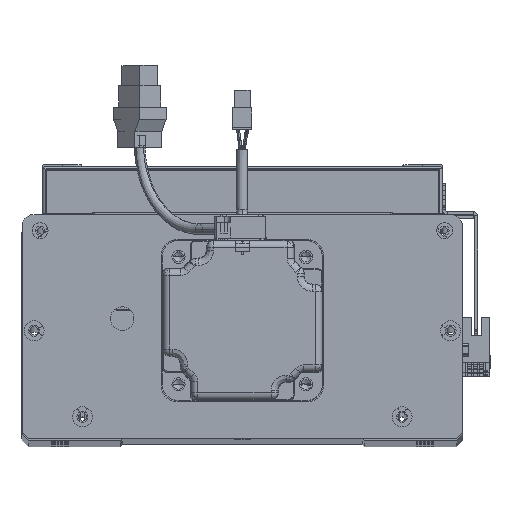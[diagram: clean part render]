
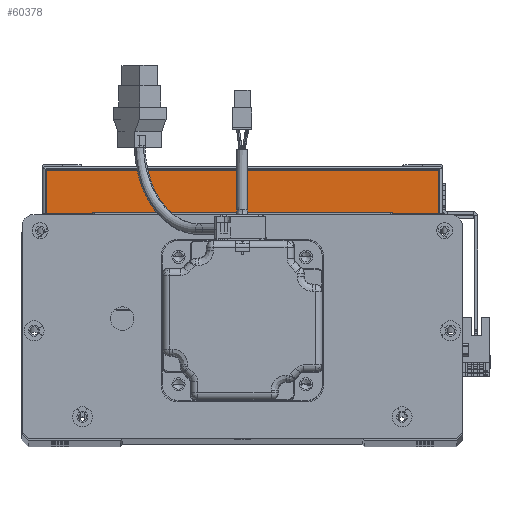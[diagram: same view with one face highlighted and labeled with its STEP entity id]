
A CAD part, top view. The second image highlights one B-rep face of the part: STEP entity #60378.
In plain terms, the highlighted planar face has unit normal (0, 0, 1) as drawn and (1, 0, 0) by its records, which use the part's own axes.
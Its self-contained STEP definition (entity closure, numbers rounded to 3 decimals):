
#1852 = DIRECTION ( 'NONE',  ( -1., 0., 0. ) ) ;
#2168 = EDGE_CURVE ( 'NONE', #28412, #24824, #3518, .T. ) ;
#3518 = LINE ( 'NONE', #25731, #58167 ) ;
#3908 = CARTESIAN_POINT ( 'NONE',  ( 150., 0., 98. ) ) ;
#4520 = LINE ( 'NONE', #29548, #59939 ) ;
#13404 = PLANE ( 'NONE',  #21476 ) ;
#15858 = DIRECTION ( 'NONE',  ( 0., 0., 1. ) ) ;
#16676 = CARTESIAN_POINT ( 'NONE',  ( 150., 0., -98. ) ) ;
#17000 = VECTOR ( 'NONE', #27959, 1000. ) ;
#19000 = LINE ( 'NONE', #44358, #39093 ) ;
#19752 = ORIENTED_EDGE ( 'NONE', *, *, #51226, .T. ) ;
#21476 = AXIS2_PLACEMENT_3D ( 'NONE', #29609, #1852, #60792 ) ;
#22025 = LINE ( 'NONE', #42939, #17000 ) ;
#24824 = VERTEX_POINT ( 'NONE', #59999 ) ;
#25731 = CARTESIAN_POINT ( 'NONE',  ( 150., 22.5, 98. ) ) ;
#27274 = ORIENTED_EDGE ( 'NONE', *, *, #2168, .T. ) ;
#27959 = DIRECTION ( 'NONE',  ( 0., 0., -1. ) ) ;
#28412 = VERTEX_POINT ( 'NONE', #50620 ) ;
#29548 = CARTESIAN_POINT ( 'NONE',  ( 150., 23.5, 98. ) ) ;
#29609 = CARTESIAN_POINT ( 'NONE',  ( 150., 23.5, -100. ) ) ;
#30751 = VERTEX_POINT ( 'NONE', #16676 ) ;
#35389 = DIRECTION ( 'NONE',  ( 0., -1., 0. ) ) ;
#38665 = VERTEX_POINT ( 'NONE', #3908 ) ;
#39093 = VECTOR ( 'NONE', #48848, 1000. ) ;
#41606 = ORIENTED_EDGE ( 'NONE', *, *, #47400, .T. ) ;
#42939 = CARTESIAN_POINT ( 'NONE',  ( 150., 0., -100. ) ) ;
#44358 = CARTESIAN_POINT ( 'NONE',  ( 150., 23.5, -98. ) ) ;
#44760 = EDGE_LOOP ( 'NONE', ( #65309, #27274, #41606, #19752 ) ) ;
#46038 = EDGE_CURVE ( 'NONE', #30751, #28412, #19000, .T. ) ;
#47400 = EDGE_CURVE ( 'NONE', #24824, #38665, #4520, .T. ) ;
#48848 = DIRECTION ( 'NONE',  ( 0., 1., 0. ) ) ;
#50620 = CARTESIAN_POINT ( 'NONE',  ( 150., 22.5, -98. ) ) ;
#51226 = EDGE_CURVE ( 'NONE', #38665, #30751, #22025, .T. ) ;
#56704 = FACE_OUTER_BOUND ( 'NONE', #44760, .T. ) ;
#58167 = VECTOR ( 'NONE', #15858, 1000. ) ;
#59939 = VECTOR ( 'NONE', #35389, 1000. ) ;
#59999 = CARTESIAN_POINT ( 'NONE',  ( 150., 22.5, 98. ) ) ;
#60378 = ADVANCED_FACE ( 'NONE', ( #56704 ), #13404, .F. ) ;
#60792 = DIRECTION ( 'NONE',  ( 0., 0., 1. ) ) ;
#65309 = ORIENTED_EDGE ( 'NONE', *, *, #46038, .T. ) ;
